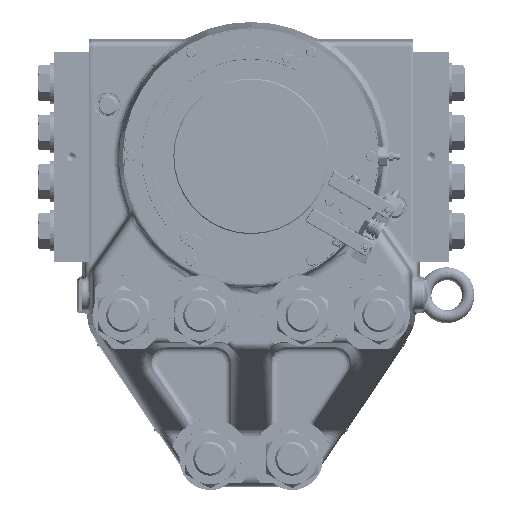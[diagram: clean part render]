
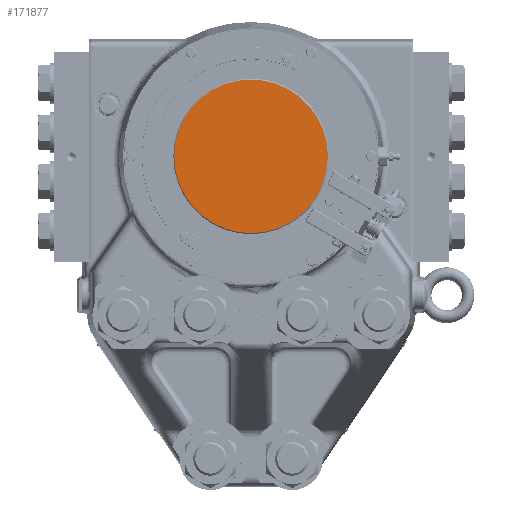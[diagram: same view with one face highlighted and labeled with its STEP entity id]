
A CAD part, top view. The second image highlights one B-rep face of the part: STEP entity #171877.
In plain terms, the highlighted planar face has unit normal (0, 0, 1).
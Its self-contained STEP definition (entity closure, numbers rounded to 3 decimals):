
#54718=CARTESIAN_POINT('',(-193.,-102.,221.));
#54719=DIRECTION('',(0.,0.,1.));
#54720=DIRECTION('',(-0.866,0.5,0.));
#54721=AXIS2_PLACEMENT_3D('',#54718,#54719,#54720);
#54726=CARTESIAN_POINT('',(-193.,-102.,221.));
#54727=DIRECTION('',(0.,0.,1.));
#54728=DIRECTION('',(0.866,-0.5,0.));
#54729=AXIS2_PLACEMENT_3D('',#54726,#54727,#54728);
#82667=CARTESIAN_POINT('',(-257.952,-64.5,221.));
#82669=VERTEX_POINT('',#82667);
#82682=CARTESIAN_POINT('',(-128.048,-139.5,221.));
#82683=VERTEX_POINT('',#82682);
#171867=CARTESIAN_POINT('',(-155.,-36.182,221.));
#171868=DIRECTION('',(0.,0.,-1.));
#171869=DIRECTION('',(-0.866,0.5,0.));
#171870=AXIS2_PLACEMENT_3D('',#171867,#171868,#171869);
#171871=PLANE('',#171870);
#171873=ORIENTED_EDGE('',*,*,#171872,.F.);
#171874=ORIENTED_EDGE('',*,*,#171857,.F.);
#171875=EDGE_LOOP('',(#171873,#171874));
#171876=FACE_OUTER_BOUND('',#171875,.F.);
#171877=ADVANCED_FACE('',(#171876),#171871,.F.);
#54722=CIRCLE('',#54721,75.);
#54730=CIRCLE('',#54729,75.);
#171857=EDGE_CURVE('',#82683,#82669,#54730,.T.);
#171872=EDGE_CURVE('',#82669,#82683,#54722,.T.);
